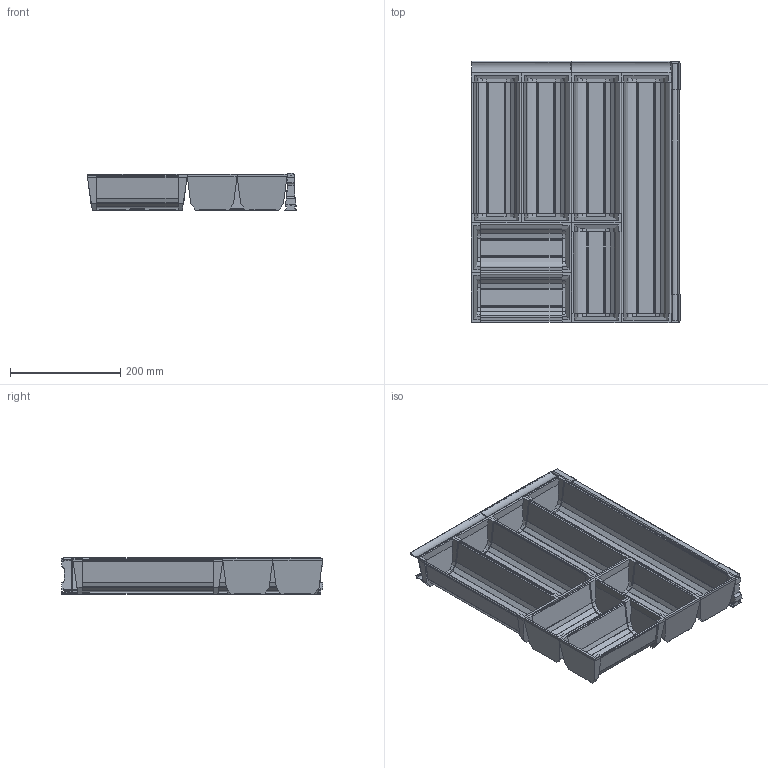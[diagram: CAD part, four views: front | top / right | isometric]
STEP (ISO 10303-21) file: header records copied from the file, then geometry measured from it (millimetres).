
FILE_DESCRIPTION (( 'STEP AP214' ), '1' );
FILE_NAME ('Magic-Sorto_B4S_NL-500.STEP', '2010-08-17T11:33:00', ( 'grass' ), ( '' ), 'SwSTEP 2.0', 'SolidWorks 2010', '' );
FILE_SCHEMA (( 'AUTOMOTIVE_DESIGN' ));
Length unit declared in the file: millimetre
Products named in the file (1): Magic-Sorto_B4S_NL-500
Bounding box: 379.4 x 473.5 x 67.5 mm (x, y, z)
Volume: 945150.1 mm3; surface area: 955338.3 mm2
Topology: 10 solids, 10 shells, 953 faces, 2757 edges, 1838 vertices
Faces by surface type: plane 625, cylinder 328
Entity records: 42189 total; most frequent: CARTESIAN_POINT 6295, ORIENTED_EDGE 5514, DIRECTION 5089, EDGE_CURVE 2757, VECTOR 2057, LINE 2057, VERTEX_POINT 1838, AXIS2_PLACEMENT_3D 1516
